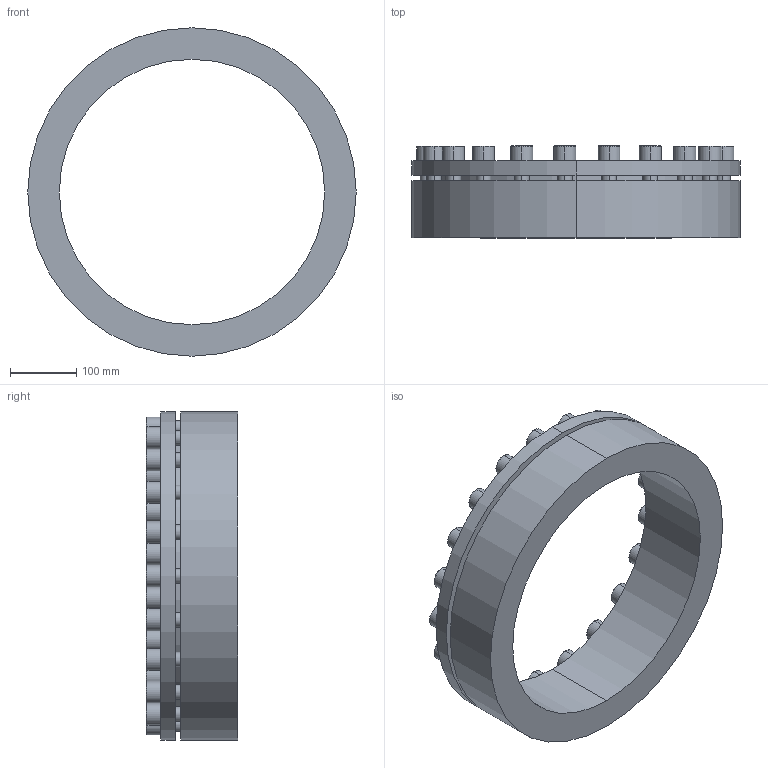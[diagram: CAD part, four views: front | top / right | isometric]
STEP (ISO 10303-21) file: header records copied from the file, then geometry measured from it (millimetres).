
FILE_DESCRIPTION (( 'STEP AP203' ), '1' );
FILE_NAME ('PL-H3 400-495.STEP', '2021-10-23T01:13:16', ( '' ), ( '' ), 'SwSTEP 2.0', 'SolidWorks 2018', '' );
FILE_SCHEMA (( 'CONFIG_CONTROL_DESIGN' ));
Length unit declared in the file: millimetre
Products named in the file (1): PL-H3 400-495
Bounding box: 495 x 138 x 495 mm (x, y, z)
Volume: 7710582.7 mm3; surface area: 623123 mm2
Topology: 1 solids, 1 shells, 306 faces, 738 edges, 478 vertices
Faces by surface type: plane 172, cylinder 92, torus 42
Entity records: 9099 total; most frequent: DIRECTION 1620, CARTESIAN_POINT 1523, ORIENTED_EDGE 1476, EDGE_CURVE 738, AXIS2_PLACEMENT_3D 575, VERTEX_POINT 478, VECTOR 470, LINE 470
